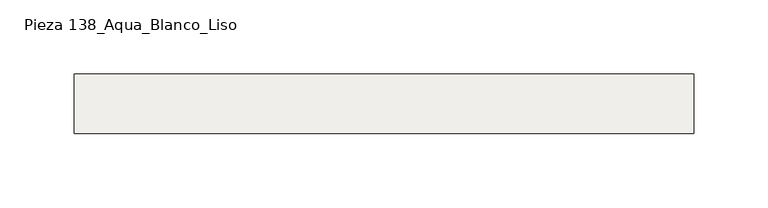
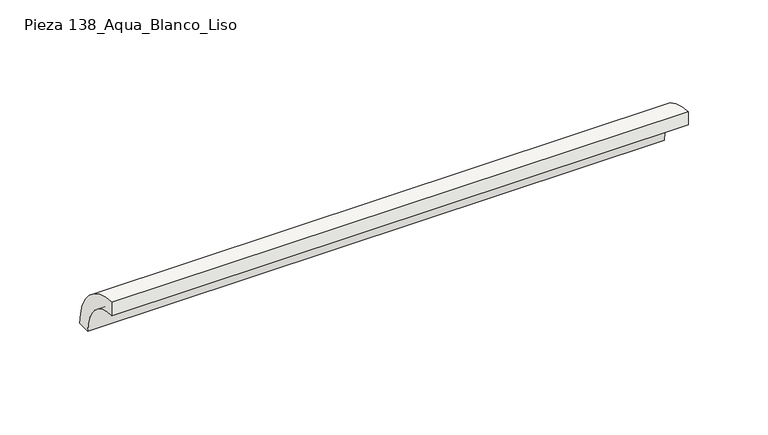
"""IFC4 building model written with IfcOpenShell, lengths in millimetres: slab geometry, ROSA GRES_138 : Pieza 138_Aqua_Blanco_Liso."""

from ifc_helpers import new_model, si_unit, point, frame, frame_2d, origin, origin_2d, place, context, project, spatial, polyline, circle_curve, trimmed, segment, composite_curve, outline, extrude, source, transform, mapped, element, save


def pieza_138_aqua_blanco_liso_c4eb7b49(model_context):
    return source(origin(), model_context, "Body", "SweptSolid", [
        extrude(outline(composite_curve([segment(trimmed(circle_curve(origin_2d(), 40.0), [point((0.0, 40.0))], [point((40.0, 0.0))], False, "CARTESIAN"), True, "CONTINUOUS"), segment(polyline([(40.0, 0.0), (30.0265886, 0.0)]), True, "CONTINUOUS"), segment(trimmed(circle_curve(frame_2d((0.0044453, 0.0044453)), 30.0221435), [point((30.0265886, 0.0))], [point((0.0, 30.0265886))], True, "CARTESIAN"), True, "CONTINUOUS"), segment(polyline([(0.0, 30.0265886), (0.0, 40.0)]), True, "CONTINUOUS")], self_intersect=False)), frame((0.0, 0.0, 0.0), z_axis=(1.0, 0.0, 0.0), x_axis=(0.0, 1.0, 0.0)), (0.0, 0.0, 1.0), 416.116439),
    ])


if __name__ == "__main__":
    model = new_model("IFC4")
    model_context = context("Model", 3, world=origin())
    ifc_project = project(units=[si_unit("LENGTHUNIT", "METRE", prefix="MILLI")], contexts=[model_context])
    site = spatial("IfcSite", under=ifc_project)
    building = spatial("IfcBuilding", under=site)
    placement = place(None, origin())
    pieza_138_aqua_blanco_liso_shape = pieza_138_aqua_blanco_liso_c4eb7b49(model_context)
    element("IfcSlab", 1, ObjectType="ROSA GRES_138 : Pieza 138_Aqua_Blanco_Liso", at=placement, inside=building, context=model_context, shape_type="MappedRepresentation", body=[
        mapped(pieza_138_aqua_blanco_liso_shape, transform((0.0, 0.0, 0.0), x_axis=(1.0, 0.0, 0.0), y_axis=(0.0, 1.0, 0.0), z_axis=(0.0, 0.0, 1.0))),
    ])
    save(model, "model.ifc")
